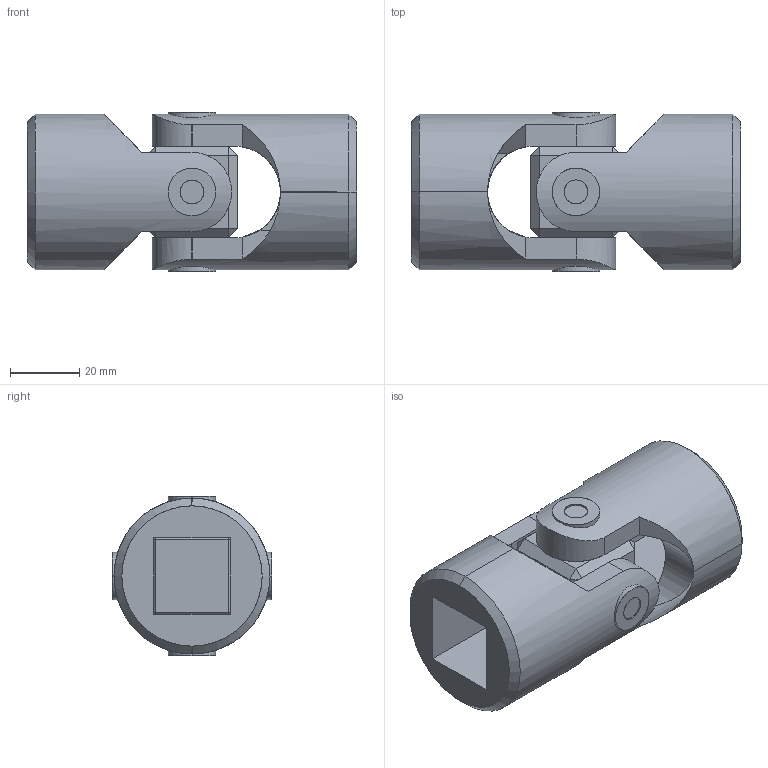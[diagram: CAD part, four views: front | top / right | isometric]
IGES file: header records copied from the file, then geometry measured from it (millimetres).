
Start section: SolidWorks IGES file using analytic representation for surfaces
Global section: file name: C:\Users\IanO\Desktop\R3690_v2\R3690_v2_20231020_IGES\R3690.022-SB.igs; native system: SolidWorks 2019; preprocessor: SolidWorks 2019; author: IanO; date: 231020.153028; units: millimetre
Bounding box: 95 x 45.9 x 45.9 mm (x, y, z)
Surface area: 32225 mm2 (no closed solid volume)
Topology: 0 solids, 0 shells, 108 faces, 2136 edges, 2136 vertices
Faces by surface type: bspline 64, revolution 44
